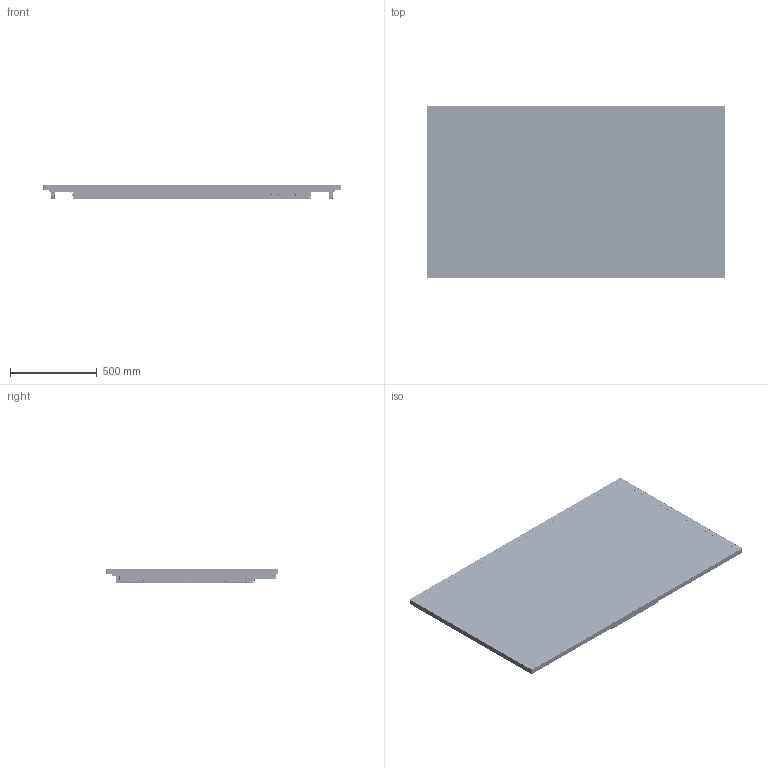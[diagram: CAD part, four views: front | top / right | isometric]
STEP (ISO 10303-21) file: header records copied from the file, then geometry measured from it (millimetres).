
FILE_DESCRIPTION((''),'2;1');
FILE_NAME('URP752-ERO-T-20250401_ASM_1_ASM','2025-07-09T17:31:47',('曾'),('制作'),'CREO PARAMETRIC BY PTC INC, 2018500','CREO PARAMETRIC BY PTC INC, 2018500','');
FILE_SCHEMA(('CONFIG_CONTROL_DESIGN','GEOMETRIC_VALIDATION_PROPERTIES_MIM'));
Products named in the file (67): 75-CGTP_67_1_1; 75-CGOC-TP_ASM_67_ASM_1_ASM_1_ASM; 75Q6_BACK-COVER-20240805_21_2_2; 75Q6_BACK-COVER-20240805_21_3_2; 75Q6_BACK-COVER-20240805_21_4_2; 75Q6_BACK-COVER-20240805_21_5_2; 75Q6_BACK-COVER-20240805_21_6_2; 75Q6_BACK-COVER-20240805_21_7_2; 75Q6_BACK-COVER-20240805-5376_1_ASM; BSO_362_1_67_1_1_1; 75Q6_BACK_COVER_ASM_8_ASM_69__1_ASM; 75Q6_LCM_20230530_ASM_1_ASM_6_1_ASM; 75Q63D_0AF00-200001_ASM_67_AS_1_ASM; 65-OUTSIDE-FRAME-T_69_1_1; 65-OUTSIDE-FRAME-B_70_1_1; 65-OUTSIDE-FRAME-L_69_1_1; 65-OUTSIDE-FRAME_ASM_68_ASM_1_A_ASM; 65-INNER-FRAME-T_72_1_1; 65-INNER-FRAME-L_73_1_1; 65-INNER-FRAME-R_73_1_1; 65-INNER-FRAME_ASM_69_ASM_1_ASM_ASM; WOOFER-HOLDER_68_1_1_1; YDP75-1JBOX-CW01-3D_13_4_ASM__1_ASM; 550_BACK-COVER-C2_13_1_-3299511; 55DA2-V_S-PCB-COVER_3_1_1_72_1_; BACKCOVER-RIGHT_1_1_70_1_1_1; 550_BACK-COVER_ASM_17_ASM_1_A_1_ASM; 55-BACKLIGHT_ASM_1_ASM_1_ASM__1_ASM; SIDECOVER-LEFT_1_1_72_1_1_2; SIDECOVER-TOP_1_1_71_1_1_1; SIDECOVE-RIGHT_1_1_72_1_1_1; 55JQT-BOTT_1_1_75_1_1; HDMI-1_2_1_1_24_4_1_13_3_20_1_2; USB_TYPEC_2_1_1_24_4_1_13_3_2_2; DP_24_4_1_13_3_20_1_1_67_1_1_1; USB_B-3_3_1_2_11_24_3_1_13_3__2; IR_35_11_1-8437640_2_1252_24__1; S232EDU_MS8386_17-1015_1_3_1__1; RJ45ZP5_PRT_1_1_1_1_1_1252333_1; SPDIF_PLT_24_4_1_13_3_19_1_1__1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
Assembly tree (77 placements, depth 8):
  URP752-ERO-T-20250401_ASM_1_ASM
    00-URP-KINGMAN-75_ASM_ASM_1_1_A_ASM
      00-URP-KINGMAN-75_ASM_74_ASM__1_ASM
        75-CGOC-TP_ASM_67_ASM_1_ASM_1_ASM
          75-CGTP_67_1_1
        75Q63D_0AF00-200001_ASM_67_AS_1_ASM
          75Q6_LCM_20230530_ASM_1_ASM_6_1_ASM
            75Q6_BACK_COVER_ASM_8_ASM_69__1_ASM
              75Q6_BACK-COVER-20240805-5376_1_ASM
                75Q6_BACK-COVER-20240805_21_2_2
                75Q6_BACK-COVER-20240805_21_3_2
                75Q6_BACK-COVER-20240805_21_4_2
                75Q6_BACK-COVER-20240805_21_5_2
                75Q6_BACK-COVER-20240805_21_6_2
                75Q6_BACK-COVER-20240805_21_7_2
              BSO_362_1_67_1_1_1  x4
        65-OUTSIDE-FRAME_ASM_68_ASM_1_A_ASM
          65-OUTSIDE-FRAME-T_69_1_1
          65-OUTSIDE-FRAME-B_70_1_1
          65-OUTSIDE-FRAME-L_69_1_1  x2
        65-INNER-FRAME_ASM_69_ASM_1_ASM_ASM
          65-INNER-FRAME-T_72_1_1
          65-INNER-FRAME-L_73_1_1
          65-INNER-FRAME-R_73_1_1
        YDP75-1JBOX-CW01-3D_13_4_ASM__1_ASM
          WOOFER-HOLDER_68_1_1_1
        BOARDS-AND-BACKCOVERS_ASM_1_A_3_ASM
          BOARDS-AND-BACKCOVERS_ASM_1_A_2_ASM
            55-BACKLIGHT_ASM_1_ASM_1_ASM__1_ASM
              550_BACK-COVER_ASM_17_ASM_1_A_1_ASM
                550_BACK-COVER-C2_13_1_-3299511
                55DA2-V_S-PCB-COVER_3_1_1_72_1_
                BACKCOVER-RIGHT_1_1_70_1_1_1
            SIDECOVER-LEFT_1_1_72_1_1_2
            SIDECOVER-TOP_1_1_71_1_1_1
            SIDECOVE-RIGHT_1_1_72_1_1_1
            55JQT-BOTT_1_1_75_1_1
            2738-MAIN-PCBA_ASM_8_ASM_ASM__1_ASM
              MAIN-PCBA_ASM_8_ASM_21_ASM_1__1_ASM
                HDMI-1_2_1_1_24_4_1_13_3_20_1_2  x2
                USB_TYPEC_2_1_1_24_4_1_13_3_2_2
                DP_24_4_1_13_3_20_1_1_67_1_1_1  x3
                USB_B-3_3_1_2_11_24_3_1_13_3__2
                IR_35_11_1-8437640_2_1252_24__1
                S232EDU_MS8386_17-1015_1_3_1__1
                RJ45ZP5_PRT_1_1_1_1_1_1252333_1
                SPDIF_PLT_24_4_1_13_3_19_1_1__1
                PRT0009_3_19_1_1_67_1_1_1
                USB-LS-3-0_24_2_1_1_2_50_1_1__1
                RESET-KEY_1_1_67_1_1_1
            550_AC-IN_LB_ASM_5_ASM_1_ASM__1_ASM
              AC-OUT_1_1_67_1_1_1
              TS27_2_1_1_1_1_67_1_1_1
              AN-IN_AC-1_2_1_1_67_1_1_1
              AC-IN_ROCKER-SWITCH_3_1_1_67__1
        7-WXQ-ANJIAN_1__ASM_1_ASM_1_A_1_ASM
          ASM0002_ASM_12_ASM_1_ASM_1_AS_1_ASM
            7J_ASM_3_ASM_1_ASM_1_ASM_67_A_1_ASM
              ASM0003_ASM_1_ASM_1_ASM_1_ASM_2_ASM
                WXQ-8KEY-IR-RB-A-1_0_ASM_1_AS_1_ASM
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Bounding box: 1717.64 x 995.28 x 78.5 mm (x, y, z)
Volume: 9827658.7 mm3; surface area: 8734268.7 mm2
Topology: 51 solids, 67 shells, 17169 faces, 50533 edges, 33656 vertices
Faces by surface type: cylinder 11754, plane 4591, cone 428, bspline 184, torus 112, extrusion 90, sphere 10
Entity records: 657634 total; most frequent: DIRECTION 95478, CARTESIAN_POINT 92581, ORIENTED_EDGE 85948, PRESENTATION_STYLE_ASSIGNMENT 43037, STYLED_ITEM 43037, CURVE_STYLE 42989, EDGE_CURVE 42989, AXIS2_PLACEMENT_3D 38152
